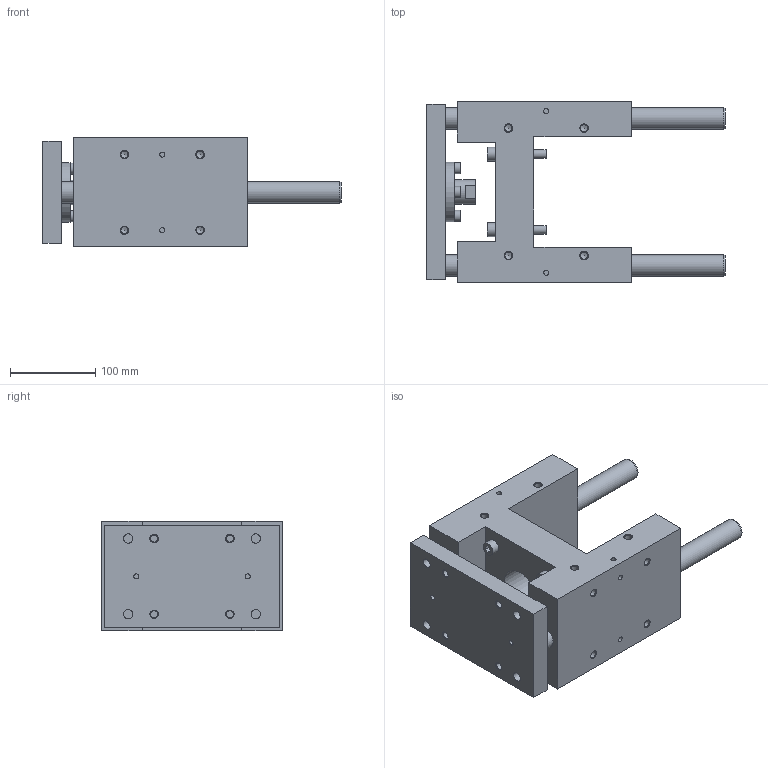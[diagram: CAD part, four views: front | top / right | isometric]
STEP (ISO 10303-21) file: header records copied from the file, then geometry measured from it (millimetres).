
FILE_DESCRIPTION( ( 'STEP AP214' ), '1' );
FILE_NAME( 'U:/Etudes/Top Solid/BIBLIO 3D AVM/TOP/PNEUMATIQUE/GUIDAGES/Type 32 (en H)/_Classique/3292_30.step', '2005-05-27T11:53:10', ( ' ' ), ( ' ' ), 'XStep 1.0', ' ', ' ' );
FILE_SCHEMA( ( 'automotive_design' ) );
Length unit declared in the file: metre
Products named in the file (2): 1; 2
Bounding box: 351 x 213 x 129 mm (x, y, z)
Volume: 3595431 mm3; surface area: 389986 mm2
Topology: 2 solids, 7 shells, 295 faces, 658 edges, 441 vertices
Faces by surface type: plane 146, cylinder 104, cone 45
Full cylindrical faces by diameter (mm): 6 x8, 8 x8, 8.376 x32, 8.5 x4, 10 x8, 10.2 x12, 11 x8, 13 x4, 16 x4, 18 x4, 18.376 x2, 25 x4, 29 x1, 32 x1, 42 x1, 45 x1, 55 x1, 70 x1
Entity records: 9541 total; most frequent: CARTESIAN_POINT 1369, DIRECTION 1240, ORIENTED_EDGE 862, EDGE_LOOP 544, AXIS2_PLACEMENT_3D 520, EDGE_CURVE 431, FACE_OUTER_BOUND 399, VERTEX_POINT 377
